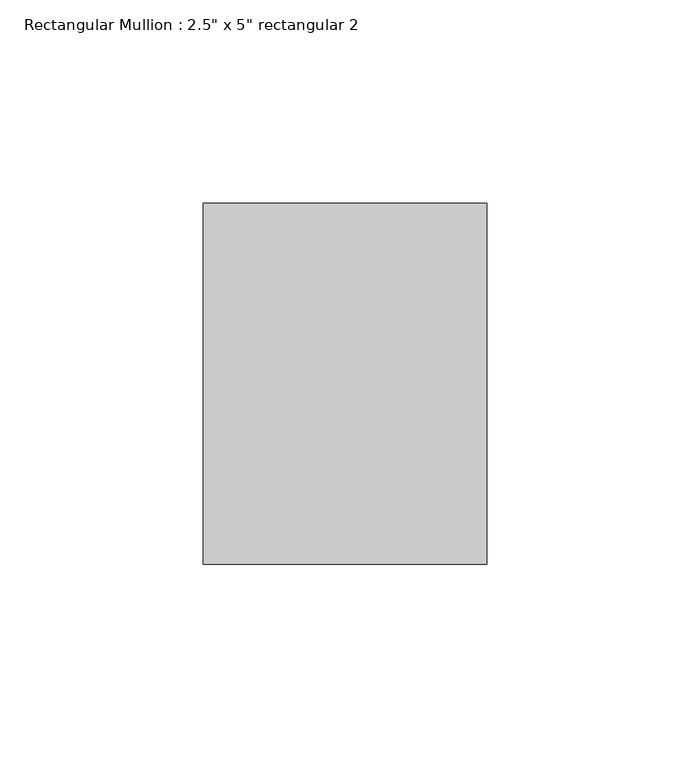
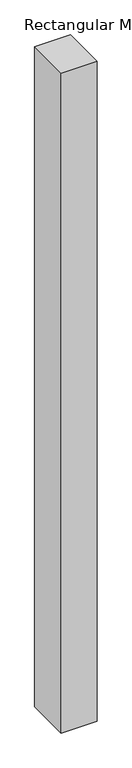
"""IFC4 building model written with IfcOpenShell, lengths in millimetres: member geometry."""

from ifc_helpers import new_model, si_unit, frame, origin, place, context, project, spatial, polyline, outline, extrude, source, transform, mapped, element, save


def member_bc283e03(model_context):
    return source(origin(), model_context, "Body", "SweptSolid", [
        extrude(outline(polyline([(0.0, 44.45), (0.0, -44.45), (-69.85, -44.45), (-69.85, 44.45), (0.0, 44.45)])), frame((0.0, 0.0, -1350.8379274), z_axis=(0.0, 0.0, 1.0), x_axis=(1.0, 0.0, 0.0)), (0.0, 0.0, 1.0), 1350.8379274),
    ])


if __name__ == "__main__":
    model = new_model("IFC4")
    model_context = context("Model", 3, world=origin())
    ifc_project = project(units=[si_unit("LENGTHUNIT", "METRE", prefix="MILLI")], contexts=[model_context])
    site = spatial("IfcSite", under=ifc_project)
    building = spatial("IfcBuilding", under=site)
    placement = place(None, origin())
    member_shape = member_bc283e03(model_context)
    element("IfcMember", 1, ObjectType="Rectangular Mullion : 2.5\" x 5\" rectangular 2", at=placement, inside=building, context=model_context, shape_type="MappedRepresentation", body=[
        mapped(member_shape, transform((0.0, 0.0, 0.0), x_axis=(1.0, 0.0, 0.0), y_axis=(0.0, 1.0, 0.0), z_axis=(0.0, 0.0, 1.0))),
    ])
    save(model, "model.ifc")
